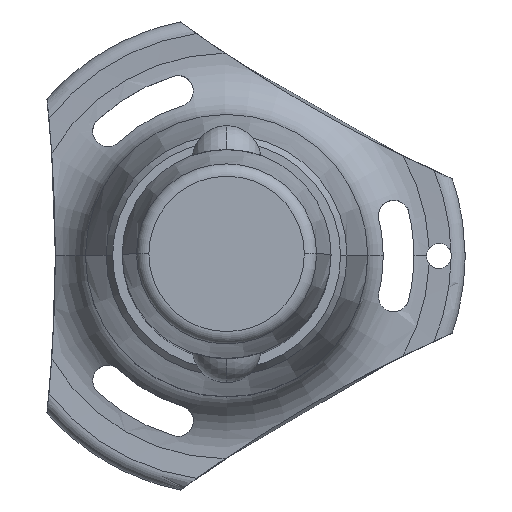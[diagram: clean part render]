
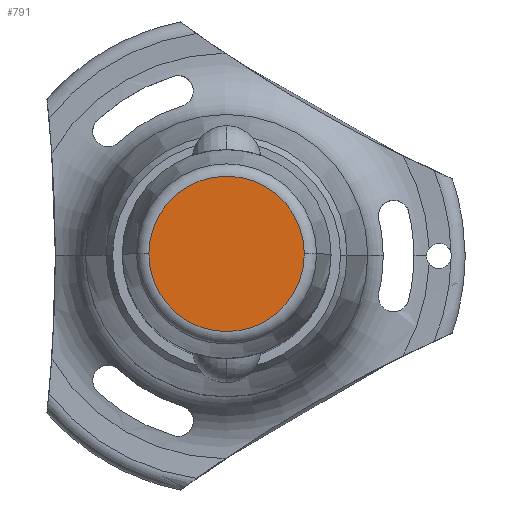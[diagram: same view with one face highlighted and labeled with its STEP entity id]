
A CAD part, top view. The second image highlights one B-rep face of the part: STEP entity #791.
In plain terms, the highlighted planar face has unit normal (0, 0, 1).
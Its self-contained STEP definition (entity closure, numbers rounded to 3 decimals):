
#6 = EDGE_LOOP ( 'NONE', ( #1341, #310 ) ) ;
#40 = DIRECTION ( 'NONE',  ( 1., 0., 0. ) ) ;
#310 = ORIENTED_EDGE ( 'NONE', *, *, #408, .T. ) ;
#408 = EDGE_CURVE ( 'NONE', #427, #2593, #763, .T. ) ;
#427 = VERTEX_POINT ( 'NONE', #1608 ) ;
#485 = DIRECTION ( 'NONE',  ( 0., 0., 1. ) ) ;
#504 = EDGE_CURVE ( 'NONE', #2593, #427, #630, .T. ) ;
#583 = CARTESIAN_POINT ( 'NONE',  ( 9.302, 0., 22. ) ) ;
#630 = CIRCLE ( 'NONE', #1037, 9.302 ) ;
#763 = CIRCLE ( 'NONE', #908, 9.302 ) ;
#791 = ADVANCED_FACE ( 'NONE', ( #1169 ), #1578, .T. ) ;
#908 = AXIS2_PLACEMENT_3D ( 'NONE', #1813, #485, #2712 ) ;
#1037 = AXIS2_PLACEMENT_3D ( 'NONE', #1451, #2324, #2132 ) ;
#1169 = FACE_OUTER_BOUND ( 'NONE', #6, .T. ) ;
#1328 = AXIS2_PLACEMENT_3D ( 'NONE', #2251, #2263, #40 ) ;
#1341 = ORIENTED_EDGE ( 'NONE', *, *, #504, .T. ) ;
#1451 = CARTESIAN_POINT ( 'NONE',  ( 0., 0., 22. ) ) ;
#1578 = PLANE ( 'NONE',  #1328 ) ;
#1608 = CARTESIAN_POINT ( 'NONE',  ( -9.302, 0., 22. ) ) ;
#1813 = CARTESIAN_POINT ( 'NONE',  ( 0., 0., 22. ) ) ;
#2132 = DIRECTION ( 'NONE',  ( 1., 0., 0. ) ) ;
#2251 = CARTESIAN_POINT ( 'NONE',  ( 0., 0., 22. ) ) ;
#2263 = DIRECTION ( 'NONE',  ( 0., 0., 1. ) ) ;
#2324 = DIRECTION ( 'NONE',  ( 0., 0., 1. ) ) ;
#2593 = VERTEX_POINT ( 'NONE', #583 ) ;
#2712 = DIRECTION ( 'NONE',  ( 1., 0., 0. ) ) ;
